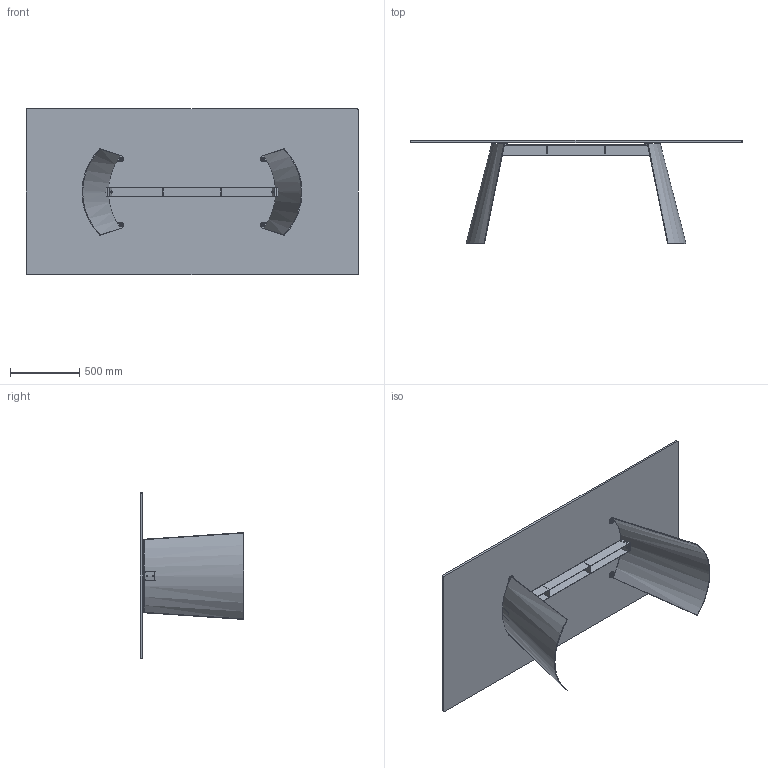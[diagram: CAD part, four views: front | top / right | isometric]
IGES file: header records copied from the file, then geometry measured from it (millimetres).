
Start section: SolidWorks IGES file using analytic representation for surfaces
Global section: file name: Y:\eforma\TECNICO\SOLIDWORKS\E-FORMA\1-TAVOLI\DORIAN\02 parts-rev 01\DN23G.IGS; native system: SolidWorks 2022; preprocessor: SolidWorks 2022; author: eforma.tech; date: 240807.171735; units: millimetre
Bounding box: 2400 x 745 x 1200 mm (x, y, z)
Volume: 48982853.9 mm3; surface area: 8420531 mm2
Topology: 42 solids, 42 shells, 646 faces, 1454 edges, 892 vertices
Faces by surface type: revolution 328, plane 300, bspline 18
